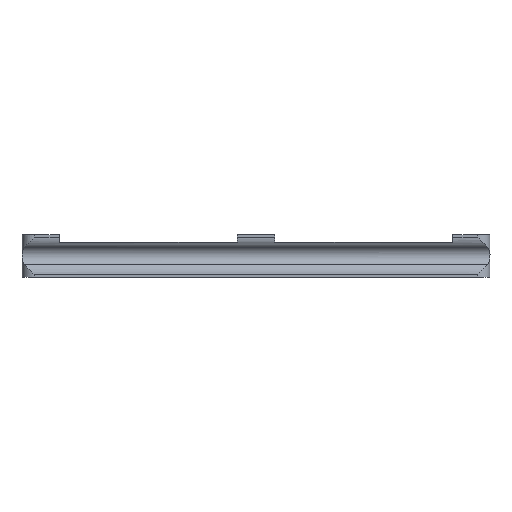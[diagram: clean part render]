
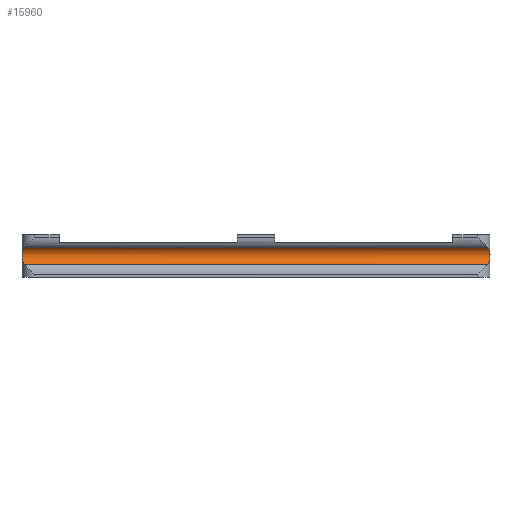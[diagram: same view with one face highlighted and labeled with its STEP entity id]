
A CAD part, top view. The second image highlights one B-rep face of the part: STEP entity #15960.
In plain terms, the highlighted cylindrical face has radius 4 mm (diameter 8 mm), a partial arc.
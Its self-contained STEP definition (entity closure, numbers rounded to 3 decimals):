
#550 = VERTEX_POINT ( 'NONE', #15717 ) ;
#622 = CARTESIAN_POINT ( 'NONE',  ( -93.862, 7.337, 25.169 ) ) ;
#814 = CARTESIAN_POINT ( 'NONE',  ( 93.444, 11.451, 26.295 ) ) ;
#1041 = CARTESIAN_POINT ( 'NONE',  ( 93.157, 11.826, 26.778 ) ) ;
#1148 = CARTESIAN_POINT ( 'NONE',  ( 93.721, 6.281, 25.656 ) ) ;
#1210 = EDGE_CURVE ( 'NONE', #10879, #10315, #9773, .T. ) ;
#2196 = CARTESIAN_POINT ( 'NONE',  ( -93.312, 11.654, 26.535 ) ) ;
#2307 = CARTESIAN_POINT ( 'NONE',  ( -93.899, 8.667, 25. ) ) ;
#2532 = CARTESIAN_POINT ( 'NONE',  ( -93.852, 9.825, 25.211 ) ) ;
#2649 = CARTESIAN_POINT ( 'NONE',  ( -93.816, 6.867, 25.345 ) ) ;
#2669 = CYLINDRICAL_SURFACE ( 'NONE', #18429, 4. ) ;
#2722 = CARTESIAN_POINT ( 'NONE',  ( 93.6, 11.109, 25.963 ) ) ;
#2832 = CARTESIAN_POINT ( 'NONE',  ( 93.501, 11.342, 26.181 ) ) ;
#2946 = CARTESIAN_POINT ( 'NONE',  ( 93.313, 11.652, 26.533 ) ) ;
#4260 = CARTESIAN_POINT ( 'NONE',  ( -93.157, 11.826, 26.778 ) ) ;
#4291 = CARTESIAN_POINT ( 'NONE',  ( 93.821, 6.862, 25.336 ) ) ;
#4331 = CARTESIAN_POINT ( 'NONE',  ( -93.822, 10.136, 25.334 ) ) ;
#4402 = CARTESIAN_POINT ( 'NONE',  ( 93.444, 5.549, 26.295 ) ) ;
#4518 = CARTESIAN_POINT ( 'NONE',  ( 93.899, 8.841, 25. ) ) ;
#4626 = CARTESIAN_POINT ( 'NONE',  ( 93.239, 11.744, 26.656 ) ) ;
#5244 = VECTOR ( 'NONE', #9436, 1000. ) ;
#5575 = EDGE_CURVE ( 'NONE', #10315, #10603, #8140, .T. ) ;
#6122 = CARTESIAN_POINT ( 'NONE',  ( -93.157, 11.826, 26.778 ) ) ;
#6260 = DIRECTION ( 'NONE',  ( -1., 0., 0. ) ) ;
#6477 = DIRECTION ( 'NONE',  ( 0., 0., 1. ) ) ;
#7008 = CARTESIAN_POINT ( 'NONE',  ( 93.157, 11.826, 26.778 ) ) ;
#7087 = LINE ( 'NONE', #20918, #12660 ) ;
#7446 = CARTESIAN_POINT ( 'NONE',  ( -93.72, 6.276, 25.659 ) ) ;
#7562 = CARTESIAN_POINT ( 'NONE',  ( -93.45, 5.537, 26.294 ) ) ;
#7635 = CARTESIAN_POINT ( 'NONE',  ( 93.65, 6.009, 25.854 ) ) ;
#7674 = CARTESIAN_POINT ( 'NONE',  ( -93.849, 7.178, 25.221 ) ) ;
#7868 = CARTESIAN_POINT ( 'NONE',  ( 93.501, 5.658, 26.181 ) ) ;
#7880 = B_SPLINE_CURVE_WITH_KNOTS ( 'NONE', 3,
 ( #19909, #9534, #14555, #4402, #7868, #7635, #1148, #4291, #21251, #21369, #19799, #9308, #8094, #4518, #12992, #11320, #16566, #16336, #18242, #12760, #2722, #2832, #814, #2946, #4626, #1041 ),
 .UNSPECIFIED., .F., .F.,
 ( 4, 2, 2, 2, 2, 2, 2, 2, 2, 2, 2, 2, 4 ),
 ( 0.023, 0.023, 0.024, 0.025, 0.026, 0.026, 0.027, 0.028, 0.029, 0.029, 0.03, 0.03, 0.031 ),
 .UNSPECIFIED. ) ;
#8094 = CARTESIAN_POINT ( 'NONE',  ( 93.899, 8.335, 25. ) ) ;
#8140 = B_SPLINE_CURVE_WITH_KNOTS ( 'NONE', 3,
 ( #6122, #16151, #2196, #10802, #16039, #19279, #17604, #4331, #2532, #17830, #9458, #12918, #2307, #19719, #9123, #622, #7674, #2649, #14479, #7446, #17495, #7562, #14250, #9016 ),
 .UNSPECIFIED., .F., .F.,
 ( 4, 2, 2, 2, 2, 2, 2, 2, 2, 2, 2, 4 ),
 ( 0.005, 0.005, 0.006, 0.007, 0.008, 0.008, 0.009, 0.01, 0.01, 0.011, 0.012, 0.013 ),
 .UNSPECIFIED. ) ;
#8150 = ORIENTED_EDGE ( 'NONE', *, *, #14172, .T. ) ;
#9016 = CARTESIAN_POINT ( 'NONE',  ( -93.157, 5.174, 26.778 ) ) ;
#9086 = DIRECTION ( 'NONE',  ( 1., 0., 0. ) ) ;
#9123 = CARTESIAN_POINT ( 'NONE',  ( -93.891, 7.823, 25.044 ) ) ;
#9308 = CARTESIAN_POINT ( 'NONE',  ( 93.897, 8.165, 25.011 ) ) ;
#9436 = DIRECTION ( 'NONE',  ( -1., 0., 0. ) ) ;
#9458 = CARTESIAN_POINT ( 'NONE',  ( -93.888, 9.168, 25.053 ) ) ;
#9534 = CARTESIAN_POINT ( 'NONE',  ( 93.239, 5.256, 26.655 ) ) ;
#9773 = LINE ( 'NONE', #18254, #5244 ) ;
#9930 = FACE_OUTER_BOUND ( 'NONE', #15567, .T. ) ;
#10315 = VERTEX_POINT ( 'NONE', #4260 ) ;
#10603 = VERTEX_POINT ( 'NONE', #21544 ) ;
#10802 = CARTESIAN_POINT ( 'NONE',  ( -93.442, 11.455, 26.299 ) ) ;
#10879 = VERTEX_POINT ( 'NONE', #7008 ) ;
#10963 = ORIENTED_EDGE ( 'NONE', *, *, #14042, .T. ) ;
#11320 = CARTESIAN_POINT ( 'NONE',  ( 93.852, 9.827, 25.211 ) ) ;
#12660 = VECTOR ( 'NONE', #9086, 1000. ) ;
#12760 = CARTESIAN_POINT ( 'NONE',  ( 93.642, 10.983, 25.86 ) ) ;
#12918 = CARTESIAN_POINT ( 'NONE',  ( -93.897, 8.834, 25.01 ) ) ;
#12992 = CARTESIAN_POINT ( 'NONE',  ( 93.891, 9.173, 25.043 ) ) ;
#14042 = EDGE_CURVE ( 'NONE', #10603, #550, #7087, .T. ) ;
#14172 = EDGE_CURVE ( 'NONE', #550, #10879, #7880, .T. ) ;
#14250 = CARTESIAN_POINT ( 'NONE',  ( -93.321, 5.338, 26.533 ) ) ;
#14479 = CARTESIAN_POINT ( 'NONE',  ( -93.796, 6.713, 25.417 ) ) ;
#14555 = CARTESIAN_POINT ( 'NONE',  ( 93.314, 5.348, 26.532 ) ) ;
#15567 = EDGE_LOOP ( 'NONE', ( #10963, #8150, #17445, #19322 ) ) ;
#15717 = CARTESIAN_POINT ( 'NONE',  ( 93.157, 5.174, 26.778 ) ) ;
#15960 = ADVANCED_FACE ( 'NONE', ( #9930 ), #2669, .F. ) ;
#16039 = CARTESIAN_POINT ( 'NONE',  ( -93.5, 11.344, 26.183 ) ) ;
#16151 = CARTESIAN_POINT ( 'NONE',  ( -93.239, 11.745, 26.656 ) ) ;
#16336 = CARTESIAN_POINT ( 'NONE',  ( 93.746, 10.575, 25.576 ) ) ;
#16514 = CARTESIAN_POINT ( 'NONE',  ( 94., 8.5, 29. ) ) ;
#16566 = CARTESIAN_POINT ( 'NONE',  ( 93.821, 10.139, 25.336 ) ) ;
#17445 = ORIENTED_EDGE ( 'NONE', *, *, #1210, .T. ) ;
#17495 = CARTESIAN_POINT ( 'NONE',  ( -93.651, 6.011, 25.852 ) ) ;
#17604 = CARTESIAN_POINT ( 'NONE',  ( -93.72, 10.725, 25.659 ) ) ;
#17830 = CARTESIAN_POINT ( 'NONE',  ( -93.881, 9.335, 25.085 ) ) ;
#18242 = CARTESIAN_POINT ( 'NONE',  ( 93.715, 10.716, 25.666 ) ) ;
#18254 = CARTESIAN_POINT ( 'NONE',  ( 94., 11.826, 26.778 ) ) ;
#18429 = AXIS2_PLACEMENT_3D ( 'NONE', #16514, #6260, #6477 ) ;
#19279 = CARTESIAN_POINT ( 'NONE',  ( -93.65, 10.99, 25.853 ) ) ;
#19322 = ORIENTED_EDGE ( 'NONE', *, *, #5575, .T. ) ;
#19719 = CARTESIAN_POINT ( 'NONE',  ( -93.899, 8.163, 25. ) ) ;
#19799 = CARTESIAN_POINT ( 'NONE',  ( 93.888, 7.831, 25.053 ) ) ;
#19909 = CARTESIAN_POINT ( 'NONE',  ( 93.157, 5.174, 26.778 ) ) ;
#20918 = CARTESIAN_POINT ( 'NONE',  ( 94., 5.174, 26.778 ) ) ;
#21251 = CARTESIAN_POINT ( 'NONE',  ( 93.852, 7.18, 25.209 ) ) ;
#21369 = CARTESIAN_POINT ( 'NONE',  ( 93.881, 7.667, 25.084 ) ) ;
#21544 = CARTESIAN_POINT ( 'NONE',  ( -93.157, 5.174, 26.778 ) ) ;
